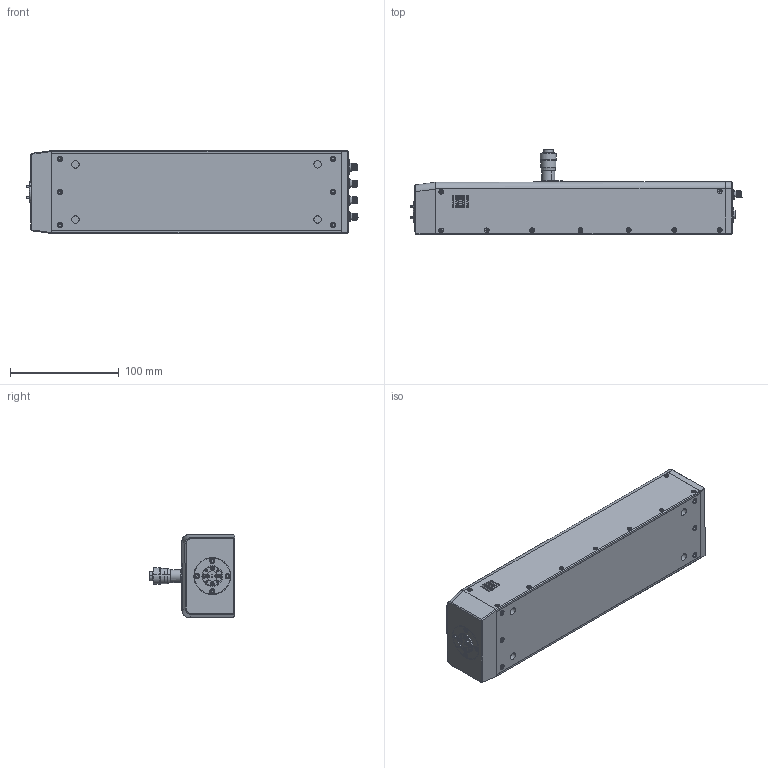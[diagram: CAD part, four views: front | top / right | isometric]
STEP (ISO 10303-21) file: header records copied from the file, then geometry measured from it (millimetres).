
FILE_DESCRIPTION (( 'STEP AP214' ), '1' );
FILE_NAME ('TO-SF-A-M_Mountable, Defeatured.STEP', '2023-06-28T22:37:29', ( '' ), ( '' ), 'SwSTEP 2.0', 'SolidWorks 2021', '' );
FILE_SCHEMA (( 'AUTOMOTIVE_DESIGN' ));
Length unit declared in the file: inch
Products named in the file (1): TO-SF-A-M_Mountable, Defeatured
Bounding box: 305.75 x 78.87 x 76.39 mm (x, y, z)
Volume: 1066665.5 mm3; surface area: 148577.8 mm2
Topology: 29 solids, 46 shells, 1971 faces, 4734 edges, 2949 vertices
Faces by surface type: plane 833, cylinder 680, cone 431, bspline 19, torus 8
Entity records: 89243 total; most frequent: CARTESIAN_POINT 19602, DIRECTION 9443, ORIENTED_EDGE 9276, EDGE_CURVE 4638, AXIS2_PLACEMENT_3D 3650, VERTEX_POINT 2949, EDGE_LOOP 2223, VECTOR 2143
